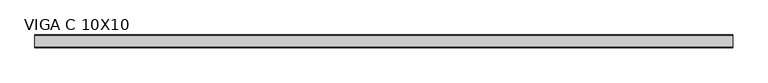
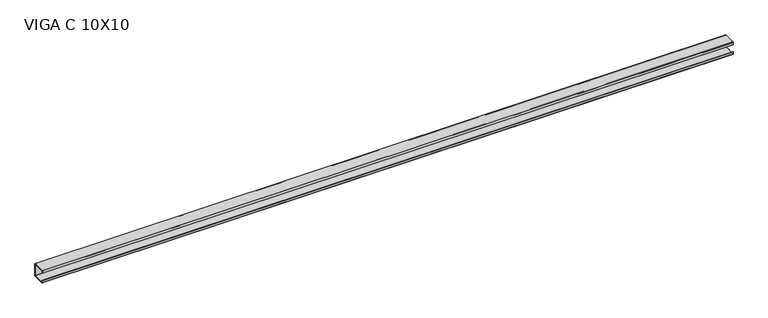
"""IFC4 building model written with IfcOpenShell, lengths in millimetres: beam geometry, VIGA PERFIL C AÇO : VIGA C 10X10."""

import ifcopenshell
import ifcopenshell.guid

model = None  # the IFC model being written
_history = None  # IfcOwnerHistory: only IFC2X3 demands one
_inside = {}  # id of a spatial element -> (the spatial element, [elements in it])
_under = {}  # id of a project, library or spatial element -> (it, [spatial elements below it])
_declared = {}  # id of a project -> (the project, [libraries it declares])
_typed = {}  # id of a type object -> (the type object, [elements of that type])
_made_of = {}  # id of a material, layer set ... -> (it, [elements and type objects made of it])


def new_model(schema):
    """Start an empty IFC model of exactly this schema.

    Asked for "IFC4X3", IfcOpenShell would pick the latest addendum, in which some entities
    have other attributes; the version numbers below select the first issue.
    IFC2X3 requires an IfcOwnerHistory on every rooted entity: one is made here for all.
    """
    global model, _history
    if schema == "IFC4X3":
        model = ifcopenshell.file(schema_version=(4, 3, 0, 0))
    else:
        model = ifcopenshell.file(schema=schema)
    _inside.clear()
    _under.clear()
    _declared.clear()
    _typed.clear()
    _made_of.clear()
    _history = None
    if model.schema == "IFC2X3":
        org = make("IfcOrganization", Name="unknown")
        user = make(
            "IfcPersonAndOrganization",
            ThePerson=make("IfcPerson", FamilyName="unknown"),
            TheOrganization=org,
        )
        app = make(
            "IfcApplication",
            ApplicationDeveloper=org,
            Version="unknown",
            ApplicationFullName="unknown",
            ApplicationIdentifier="unknown",
        )
        _history = make(
            "IfcOwnerHistory",
            OwningUser=user,
            OwningApplication=app,
            ChangeAction="ADDED",
            CreationDate=0,
        )
    return model


def make(cls, **values):
    """One entity of the class cls with the attributes given. An attribute that is None is left unset."""
    return model.create_entity(
        cls, **{name: value for name, value in values.items() if value is not None}
    )


def rooted(cls, **values):
    """An entity with a GlobalId (a new one), such as an element, a storey or a relation."""
    return make(cls, GlobalId=ifcopenshell.guid.new(), OwnerHistory=_history, **values)


def si_unit(unit_type, name, prefix=None):
    """IfcSIUnit, for example si_unit("LENGTHUNIT", "METRE", prefix="MILLI")."""
    return make("IfcSIUnit", UnitType=unit_type, Prefix=prefix, Name=name)


def assignment(units):
    """IfcUnitAssignment: the units of a project."""
    return None if units is None else make("IfcUnitAssignment", Units=units)


def point(xyz):
    """IfcCartesianPoint."""
    return None if xyz is None else make("IfcCartesianPoint", Coordinates=xyz)


def direction(xyz):
    """IfcDirection."""
    return None if xyz is None else make("IfcDirection", DirectionRatios=xyz)


def frame(location, z_axis=None, x_axis=None):
    """IfcAxis2Placement3D, a coordinate frame: its origin and axes. An axis left out is left unset."""
    return make(
        "IfcAxis2Placement3D",
        Location=point(location),
        Axis=direction(z_axis),
        RefDirection=direction(x_axis),
    )


def frame_2d(location, x_axis=None):
    """IfcAxis2Placement2D, a coordinate frame in the plane: its origin and x axis."""
    return make(
        "IfcAxis2Placement2D", Location=point(location), RefDirection=direction(x_axis)
    )


def origin():
    """The frame at (0, 0, 0) with its axes left unset."""
    return frame((0.0, 0.0, 0.0))


def place(relative_to, where):
    """IfcLocalPlacement: puts the frame where relative to a parent placement (None: the world)."""
    return make(
        "IfcLocalPlacement", PlacementRelTo=relative_to, RelativePlacement=where
    )


def context(
    kind, dimensions, precision=None, world=None, true_north=None, identifier=None
):
    """IfcGeometricRepresentationContext, for example the 3D "Model" context."""
    return make(
        "IfcGeometricRepresentationContext",
        ContextIdentifier=identifier,
        ContextType=kind,
        CoordinateSpaceDimension=dimensions,
        Precision=precision,
        WorldCoordinateSystem=world,
        TrueNorth=true_north,
    )


def project(units=None, contexts=None):
    """IfcProject with its units and contexts."""
    return rooted(
        "IfcProject",
        Name="project",
        RepresentationContexts=contexts,
        UnitsInContext=assignment(units),
    )


def spatial(cls, under=None, at=None, **own):
    """A site, building, storey or space (cls), placed at a placement, below another one or the project."""
    s = rooted(cls, ObjectPlacement=at, **own)
    if under is not None:
        _under.setdefault(under.id(), (under, []))[1].append(s)
    return s


def polyline(points):
    """IfcPolyline through the points."""
    return make("IfcPolyline", Points=[point(p) for p in points])


def circle_curve(where, radius):
    """IfcCircle in the frame where."""
    return make("IfcCircle", Position=where, Radius=radius)


def trimmed(basis, trim1, trim2, sense, master):
    """IfcTrimmedCurve: the piece of a basis curve between two trims."""
    return make(
        "IfcTrimmedCurve",
        BasisCurve=basis,
        Trim1=trim1,
        Trim2=trim2,
        SenseAgreement=sense,
        MasterRepresentation=master,
    )


def segment(curve, same_sense, transition):
    """IfcCompositeCurveSegment."""
    return make(
        "IfcCompositeCurveSegment",
        Transition=transition,
        SameSense=same_sense,
        ParentCurve=curve,
    )


def composite_curve(segments, self_intersect=None):
    """IfcCompositeCurve: segments joined end to end."""
    return make("IfcCompositeCurve", Segments=segments, SelfIntersect=self_intersect)


def outline(outer, holes=None, kind="AREA"):
    """IfcArbitraryClosedProfileDef: a profile drawn as a closed curve; with holes, ...WithVoids."""
    if holes is None:
        return make("IfcArbitraryClosedProfileDef", ProfileType=kind, OuterCurve=outer)
    return make(
        "IfcArbitraryProfileDefWithVoids",
        ProfileType=kind,
        OuterCurve=outer,
        InnerCurves=holes,
    )


def extrude(swept, where, along, depth):
    """IfcExtrudedAreaSolid: the profile swept, set in the frame where, extruded along a direction by depth."""
    return make(
        "IfcExtrudedAreaSolid",
        SweptArea=swept,
        Position=where,
        ExtrudedDirection=direction(along),
        Depth=depth,
    )


def shape(context_of_items, identifier, shape_type, items):
    """IfcShapeRepresentation: the items that make up one representation, for example the "Body"."""
    return make(
        "IfcShapeRepresentation",
        ContextOfItems=context_of_items,
        RepresentationIdentifier=identifier,
        RepresentationType=shape_type,
        Items=items,
    )


def source(mapping_origin, context_of_items, identifier, shape_type, items):
    """IfcRepresentationMap: a shape defined once, which mapped items show again and again."""
    return make(
        "IfcRepresentationMap",
        MappingOrigin=mapping_origin,
        MappedRepresentation=shape(context_of_items, identifier, shape_type, items),
    )


def transform(
    local_origin,
    x_axis=None,
    y_axis=None,
    z_axis=None,
    scale=None,
    scale2=None,
    scale3=None,
    uniform=True,
):
    """IfcCartesianTransformationOperator3D, or its non-uniform kind. x_axis, y_axis, z_axis: its Axis1, 2, 3."""
    if uniform:
        return make(
            "IfcCartesianTransformationOperator3D",
            Axis1=direction(x_axis),
            Axis2=direction(y_axis),
            LocalOrigin=point(local_origin),
            Scale=scale,
            Axis3=direction(z_axis),
        )
    return make(
        "IfcCartesianTransformationOperator3DnonUniform",
        Axis1=direction(x_axis),
        Axis2=direction(y_axis),
        LocalOrigin=point(local_origin),
        Scale=scale,
        Axis3=direction(z_axis),
        Scale2=scale2,
        Scale3=scale3,
    )


def mapped(mapping_source, mapping_target):
    """IfcMappedItem: shows the shape of a source again, moved by a transform."""
    return make(
        "IfcMappedItem", MappingSource=mapping_source, MappingTarget=mapping_target
    )


def made_of(thing, what):
    """Note that an element or type object is made of a material, layer set ...; save() writes the relation."""
    if what is not None:
        _made_of.setdefault(what.id(), (what, []))[1].append(thing)
    return thing


def element(
    cls,
    number,
    at=None,
    inside=None,
    cuts=None,
    type_object=None,
    material=None,
    context=None,
    identifier="Body",
    shape_type=None,
    held_by="IfcProductDefinitionShape",
    body=None,
    shapes=None,
    **own,
):
    """One element of the class cls, such as IfcWall. Its Tag is "e" and its number.

    at: its placement. inside: the storey or other place that contains it. cuts: it is an
    opening in that element (IfcRelVoidsElement). A single representation is given by context,
    identifier, shape_type and body (its items); several are given by shapes. held_by: the class
    of the entity that holds the representations. save() writes the other relations.
    """
    e = rooted(cls, Tag="e%d" % number, ObjectPlacement=at, **own)
    if body is not None:
        shapes = [shape(context, identifier, shape_type, body)]
    if shapes is not None:
        e.Representation = make(held_by, Representations=shapes)
    if inside is not None:
        _inside.setdefault(inside.id(), (inside, []))[1].append(e)
    if cuts is not None:
        rooted(
            "IfcRelVoidsElement", RelatingBuildingElement=cuts, RelatedOpeningElement=e
        )
    if type_object is not None:
        _typed.setdefault(type_object.id(), (type_object, []))[1].append(e)
    return made_of(e, material)


def aggregate(whole, parts):
    """IfcRelAggregates: a whole, such as a stair, and the parts it consists of."""
    return rooted("IfcRelAggregates", RelatingObject=whole, RelatedObjects=parts)


def save(model, path):
    """Write the relations noted so far, then the file.

    IfcRelAggregates (storeys below a building ...), IfcRelContainedInSpatialStructure (elements
    in a storey), IfcRelDefinesByType, IfcRelAssociatesMaterial and IfcRelDeclares: one each for
    every whole, place, type object, material and project.
    """
    for whole, parts in _under.values():
        aggregate(whole, parts)
    for where, things in _inside.values():
        rooted(
            "IfcRelContainedInSpatialStructure",
            RelatedElements=things,
            RelatingStructure=where,
        )
    for kind, things in _typed.values():
        rooted("IfcRelDefinesByType", RelatedObjects=things, RelatingType=kind)
    for what, things in _made_of.values():
        rooted("IfcRelAssociatesMaterial", RelatedObjects=things, RelatingMaterial=what)
    for by, libraries in _declared.values():
        rooted("IfcRelDeclares", RelatingContext=by, RelatedDefinitions=libraries)
    model.write(path)


def viga_c_10x10_58e1816c(model_context):
    return source(origin(), model_context, "Body", "SweptSolid", [
        extrude(outline(polyline([(9.2, -50.0), (-90.8, -50.0), (-90.8, -30.0), (-88.9, -30.0), (-88.9, -48.1), (7.3, -48.1), (7.3, 48.1), (-88.9, 48.1), (-88.9, 30.0), (-90.8, 30.0), (-90.8, 50.0), (9.2, 50.0), (9.2, -50.0)])), frame((-2720.0, 0.0, 0.0), z_axis=(1.0, 0.0, 0.0), x_axis=(0.0, 1.0, 0.0)), (0.0, 0.0, 1.0), 5440.0),
        extrude(outline(composite_curve([segment(trimmed(circle_curve(frame_2d((5.4, -46.2)), 3.8), [point((9.2, -46.2))], [point((5.4, -50.0))], False, "CARTESIAN"), True, "CONTINUOUS"), segment(polyline([(5.4, -50.0), (-87.0, -50.0)]), True, "CONTINUOUS"), segment(trimmed(circle_curve(frame_2d((-87.0, -46.2)), 3.8), [point((-87.0, -50.0))], [point((-90.8, -46.2))], False, "CARTESIAN"), True, "CONTINUOUS"), segment(polyline([(-90.8, -46.2), (-90.8, -30.0), (-88.9, -30.0), (-88.9, -46.2)]), True, "CONTINUOUS"), segment(trimmed(circle_curve(frame_2d((-87.0, -46.2)), 1.9), [point((-88.9, -46.2))], [point((-87.0, -48.1))], True, "CARTESIAN"), True, "CONTINUOUS"), segment(polyline([(-87.0, -48.1), (5.4, -48.1)]), True, "CONTINUOUS"), segment(trimmed(circle_curve(frame_2d((5.4, -46.2)), 1.9), [point((5.4, -48.1))], [point((7.3, -46.2))], True, "CARTESIAN"), True, "CONTINUOUS"), segment(polyline([(7.3, -46.2), (7.3, 46.2)]), True, "CONTINUOUS"), segment(trimmed(circle_curve(frame_2d((5.4, 46.2)), 1.9), [point((7.3, 46.2))], [point((5.4, 48.1))], True, "CARTESIAN"), True, "CONTINUOUS"), segment(polyline([(5.4, 48.1), (-87.0, 48.1)]), True, "CONTINUOUS"), segment(trimmed(circle_curve(frame_2d((-87.0, 46.2)), 1.9), [point((-87.0, 48.1))], [point((-88.9, 46.2))], True, "CARTESIAN"), True, "CONTINUOUS"), segment(polyline([(-88.9, 46.2), (-88.9, 30.0), (-90.8, 30.0), (-90.8, 46.2)]), True, "CONTINUOUS"), segment(trimmed(circle_curve(frame_2d((-87.0, 46.2)), 3.8), [point((-90.8, 46.2))], [point((-87.0, 50.0))], False, "CARTESIAN"), True, "CONTINUOUS"), segment(polyline([(-87.0, 50.0), (5.4, 50.0)]), True, "CONTINUOUS"), segment(trimmed(circle_curve(frame_2d((5.4, 46.2)), 3.8), [point((5.4, 50.0))], [point((9.2, 46.2))], False, "CARTESIAN"), True, "CONTINUOUS"), segment(polyline([(9.2, 46.2), (9.2, -46.2)]), True, "CONTINUOUS")], self_intersect=False)), frame((-2720.0, 0.0, 0.0), z_axis=(1.0, 0.0, 0.0), x_axis=(0.0, 1.0, 0.0)), (0.0, 0.0, 1.0), 5440.0),
    ])


if __name__ == "__main__":
    model = new_model("IFC4")
    model_context = context("Model", 3, world=origin())
    ifc_project = project(units=[si_unit("LENGTHUNIT", "METRE", prefix="MILLI")], contexts=[model_context])
    site = spatial("IfcSite", under=ifc_project)
    building = spatial("IfcBuilding", under=site)
    placement = place(None, origin())
    viga_c_10x10_shape = viga_c_10x10_58e1816c(model_context)
    element("IfcBeam", 1, ObjectType="VIGA PERFIL C AÇO : VIGA C 10X10", at=placement, inside=building, context=model_context, shape_type="MappedRepresentation", body=[
        mapped(viga_c_10x10_shape, transform((0.0, 0.0, 0.0), x_axis=(1.0, 0.0, 0.0), y_axis=(0.0, 1.0, 0.0), z_axis=(0.0, 0.0, 1.0))),
    ])
    save(model, "model.ifc")
